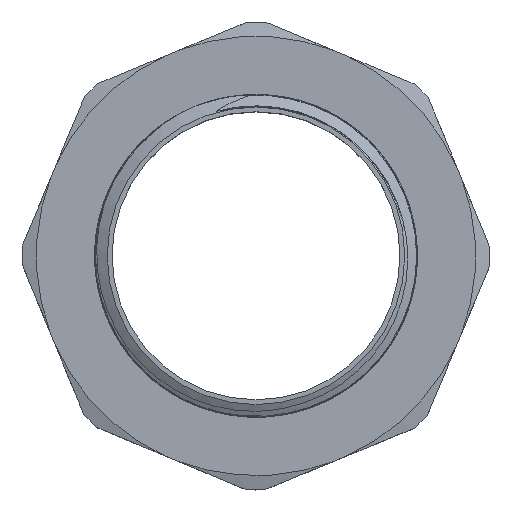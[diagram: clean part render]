
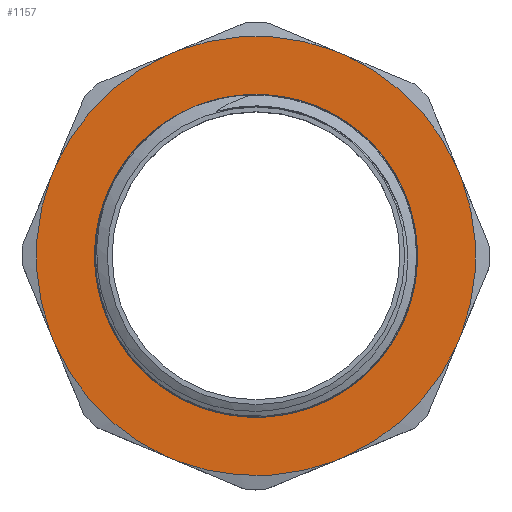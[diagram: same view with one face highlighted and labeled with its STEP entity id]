
A CAD part, top view. The second image highlights one B-rep face of the part: STEP entity #1157.
In plain terms, the highlighted planar face has unit normal (0, 0, 1) by its records, which use the part's own axes.
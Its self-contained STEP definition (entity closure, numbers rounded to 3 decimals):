
#27=PLANE('',#1272);
#82=FACE_BOUND('',#208,.T.);
#141=FACE_OUTER_BOUND('',#207,.T.);
#207=EDGE_LOOP('',(#1031,#1032,#1033,#1034,#1035,#1036,#1037,#1038,#1039,
#1040,#1041,#1042,#1043,#1044,#1045,#1046));
#208=EDGE_LOOP('',(#1047,#1048));
#217=CIRCLE('',#1187,22.42);
#218=CIRCLE('',#1188,22.42);
#222=CIRCLE('',#1204,30.514);
#224=CIRCLE('',#1207,30.514);
#226=CIRCLE('',#1210,30.514);
#228=CIRCLE('',#1213,30.514);
#230=CIRCLE('',#1216,30.514);
#232=CIRCLE('',#1219,30.514);
#234=CIRCLE('',#1222,30.514);
#236=CIRCLE('',#1225,30.514);
#342=LINE('',#4950,#393);
#346=LINE('',#4957,#397);
#348=LINE('',#4960,#399);
#352=LINE('',#4967,#403);
#354=LINE('',#4970,#405);
#358=LINE('',#4977,#409);
#360=LINE('',#4980,#411);
#366=LINE('',#8478,#417);
#393=VECTOR('',#1437,10.);
#397=VECTOR('',#1447,10.);
#399=VECTOR('',#1451,10.);
#403=VECTOR('',#1461,10.);
#405=VECTOR('',#1465,10.);
#409=VECTOR('',#1475,10.);
#411=VECTOR('',#1479,10.);
#417=VECTOR('',#1513,10.);
#430=VERTEX_POINT('',#1626);
#431=VERTEX_POINT('',#1628);
#462=VERTEX_POINT('',#2613);
#464=VERTEX_POINT('',#2619);
#466=VERTEX_POINT('',#2626);
#468=VERTEX_POINT('',#2632);
#470=VERTEX_POINT('',#2639);
#472=VERTEX_POINT('',#2645);
#474=VERTEX_POINT('',#2652);
#476=VERTEX_POINT('',#2658);
#478=VERTEX_POINT('',#2665);
#480=VERTEX_POINT('',#2671);
#482=VERTEX_POINT('',#2678);
#484=VERTEX_POINT('',#2684);
#486=VERTEX_POINT('',#2691);
#488=VERTEX_POINT('',#2697);
#490=VERTEX_POINT('',#2704);
#492=VERTEX_POINT('',#2710);
#552=EDGE_CURVE('',#430,#431,#217,.T.);
#553=EDGE_CURVE('',#431,#430,#218,.T.);
#597=EDGE_CURVE('',#462,#464,#222,.T.);
#601=EDGE_CURVE('',#466,#468,#224,.T.);
#605=EDGE_CURVE('',#470,#472,#226,.T.);
#609=EDGE_CURVE('',#474,#476,#228,.T.);
#613=EDGE_CURVE('',#478,#480,#230,.T.);
#617=EDGE_CURVE('',#482,#484,#232,.T.);
#621=EDGE_CURVE('',#486,#488,#234,.T.);
#625=EDGE_CURVE('',#490,#492,#236,.T.);
#669=EDGE_CURVE('',#480,#474,#342,.T.);
#673=EDGE_CURVE('',#484,#478,#346,.T.);
#675=EDGE_CURVE('',#476,#470,#348,.T.);
#679=EDGE_CURVE('',#488,#482,#352,.T.);
#681=EDGE_CURVE('',#472,#466,#354,.T.);
#685=EDGE_CURVE('',#492,#486,#358,.T.);
#687=EDGE_CURVE('',#468,#462,#360,.T.);
#706=EDGE_CURVE('',#464,#490,#366,.T.);
#1031=ORIENTED_EDGE('',*,*,#625,.T.);
#1032=ORIENTED_EDGE('',*,*,#685,.T.);
#1033=ORIENTED_EDGE('',*,*,#621,.T.);
#1034=ORIENTED_EDGE('',*,*,#679,.T.);
#1035=ORIENTED_EDGE('',*,*,#617,.T.);
#1036=ORIENTED_EDGE('',*,*,#673,.T.);
#1037=ORIENTED_EDGE('',*,*,#613,.T.);
#1038=ORIENTED_EDGE('',*,*,#669,.T.);
#1039=ORIENTED_EDGE('',*,*,#609,.T.);
#1040=ORIENTED_EDGE('',*,*,#675,.T.);
#1041=ORIENTED_EDGE('',*,*,#605,.T.);
#1042=ORIENTED_EDGE('',*,*,#681,.T.);
#1043=ORIENTED_EDGE('',*,*,#601,.T.);
#1044=ORIENTED_EDGE('',*,*,#687,.T.);
#1045=ORIENTED_EDGE('',*,*,#597,.T.);
#1046=ORIENTED_EDGE('',*,*,#706,.T.);
#1047=ORIENTED_EDGE('',*,*,#553,.F.);
#1048=ORIENTED_EDGE('',*,*,#552,.F.);
#1157=ADVANCED_FACE('',(#141,#82),#27,.T.);
#1187=AXIS2_PLACEMENT_3D('',#1629,#1303,#1304);
#1188=AXIS2_PLACEMENT_3D('',#1630,#1305,#1306);
#1204=AXIS2_PLACEMENT_3D('',#2623,#1348,#1349);
#1207=AXIS2_PLACEMENT_3D('',#2636,#1354,#1355);
#1210=AXIS2_PLACEMENT_3D('',#2649,#1360,#1361);
#1213=AXIS2_PLACEMENT_3D('',#2662,#1366,#1367);
#1216=AXIS2_PLACEMENT_3D('',#2675,#1372,#1373);
#1219=AXIS2_PLACEMENT_3D('',#2688,#1378,#1379);
#1222=AXIS2_PLACEMENT_3D('',#2701,#1384,#1385);
#1225=AXIS2_PLACEMENT_3D('',#2714,#1390,#1391);
#1272=AXIS2_PLACEMENT_3D('',#8479,#1514,#1515);
#1303=DIRECTION('center_axis',(0.,0.,1.));
#1304=DIRECTION('ref_axis',(1.,0.,0.));
#1305=DIRECTION('center_axis',(0.,0.,1.));
#1306=DIRECTION('ref_axis',(1.,0.,0.));
#1348=DIRECTION('center_axis',(0.,0.,1.));
#1349=DIRECTION('ref_axis',(0.,1.,0.));
#1354=DIRECTION('center_axis',(0.,0.,1.));
#1355=DIRECTION('ref_axis',(0.,1.,0.));
#1360=DIRECTION('center_axis',(0.,0.,1.));
#1361=DIRECTION('ref_axis',(0.,1.,0.));
#1366=DIRECTION('center_axis',(0.,0.,1.));
#1367=DIRECTION('ref_axis',(0.,1.,0.));
#1372=DIRECTION('center_axis',(0.,0.,1.));
#1373=DIRECTION('ref_axis',(0.,1.,0.));
#1378=DIRECTION('center_axis',(0.,0.,1.));
#1379=DIRECTION('ref_axis',(0.,1.,0.));
#1384=DIRECTION('center_axis',(0.,0.,1.));
#1385=DIRECTION('ref_axis',(0.,1.,0.));
#1390=DIRECTION('center_axis',(0.,0.,1.));
#1391=DIRECTION('ref_axis',(0.,1.,0.));
#1437=DIRECTION('',(0.925,0.38,0.));
#1447=DIRECTION('',(0.923,-0.385,0.));
#1451=DIRECTION('',(0.385,0.923,0.));
#1461=DIRECTION('',(0.38,-0.925,0.));
#1465=DIRECTION('',(-0.38,0.925,0.));
#1475=DIRECTION('',(-0.385,-0.923,0.));
#1479=DIRECTION('',(-0.923,0.385,0.));
#1513=DIRECTION('',(-0.925,-0.38,0.));
#1514=DIRECTION('center_axis',(0.,0.,1.));
#1515=DIRECTION('ref_axis',(1.,0.,0.));
#1626=CARTESIAN_POINT('',(0.,22.42,27.496));
#1628=CARTESIAN_POINT('',(0.,-22.42,27.496));
#1629=CARTESIAN_POINT('Origin',(0.,0.,27.496));
#1630=CARTESIAN_POINT('Origin',(0.,0.,27.496));
#2613=CARTESIAN_POINT('',(10.885,28.507,27.496));
#2619=CARTESIAN_POINT('',(-10.749,28.558,27.496));
#2623=CARTESIAN_POINT('Origin',(0.,0.,27.496));
#2626=CARTESIAN_POINT('',(27.854,12.46,27.496));
#2632=CARTESIAN_POINT('',(12.593,27.794,27.496));
#2636=CARTESIAN_POINT('Origin',(0.,0.,27.496));
#2639=CARTESIAN_POINT('',(28.507,-10.885,27.496));
#2645=CARTESIAN_POINT('',(28.558,10.749,27.496));
#2649=CARTESIAN_POINT('Origin',(0.,0.,27.496));
#2652=CARTESIAN_POINT('',(12.46,-27.854,27.496));
#2658=CARTESIAN_POINT('',(27.794,-12.593,27.496));
#2662=CARTESIAN_POINT('Origin',(0.,0.,27.496));
#2665=CARTESIAN_POINT('',(-10.885,-28.507,27.496));
#2671=CARTESIAN_POINT('',(10.749,-28.558,27.496));
#2675=CARTESIAN_POINT('Origin',(0.,0.,27.496));
#2678=CARTESIAN_POINT('',(-27.854,-12.46,27.496));
#2684=CARTESIAN_POINT('',(-12.593,-27.794,27.496));
#2688=CARTESIAN_POINT('Origin',(0.,0.,27.496));
#2691=CARTESIAN_POINT('',(-28.507,10.885,27.496));
#2697=CARTESIAN_POINT('',(-28.558,-10.749,27.496));
#2701=CARTESIAN_POINT('Origin',(0.,0.,27.496));
#2704=CARTESIAN_POINT('',(-12.46,27.854,27.496));
#2710=CARTESIAN_POINT('',(-27.794,12.593,27.496));
#2714=CARTESIAN_POINT('Origin',(0.,0.,27.496));
#4950=CARTESIAN_POINT('',(-0.078,-33.013,27.496));
#4957=CARTESIAN_POINT('',(-23.399,-23.288,27.496));
#4960=CARTESIAN_POINT('',(23.288,-23.399,27.496));
#4967=CARTESIAN_POINT('',(-33.013,0.078,27.496));
#4970=CARTESIAN_POINT('',(33.013,-0.078,27.496));
#4977=CARTESIAN_POINT('',(-23.288,23.399,27.496));
#4980=CARTESIAN_POINT('',(23.399,23.288,27.496));
#8478=CARTESIAN_POINT('',(0.078,33.013,27.496));
#8479=CARTESIAN_POINT('Origin',(0.,-22.42,27.496));
